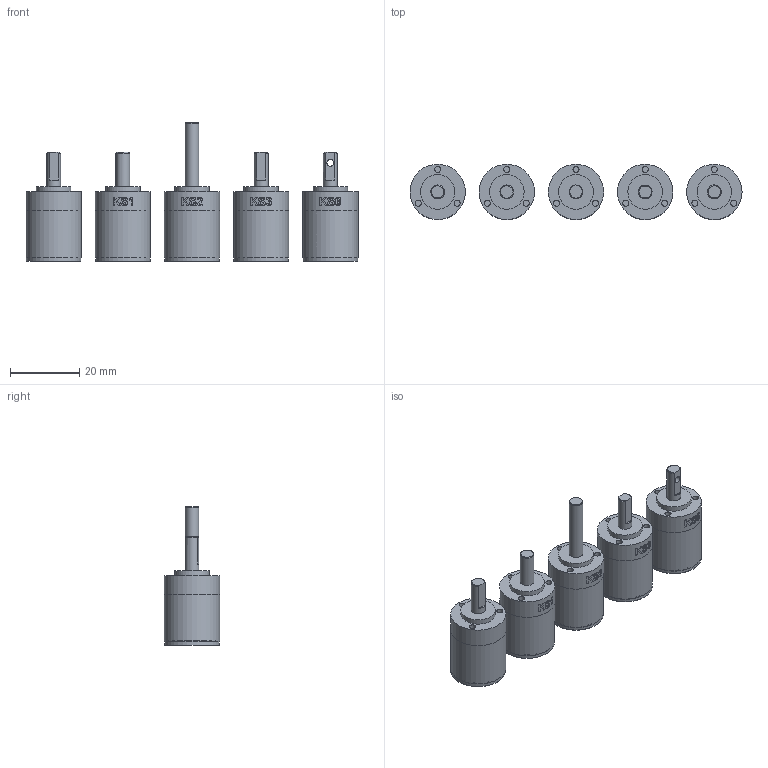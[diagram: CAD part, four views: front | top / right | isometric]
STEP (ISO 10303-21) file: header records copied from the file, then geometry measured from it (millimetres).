
FILE_DESCRIPTION(/* description */ (''),/* implementation_level */ '2;1');
FILE_NAME(/* name */ '16GPT-2stage_standard+KSx.stp',/* time_stamp */ '2024-11-12T10:30:52+01:00',/* author */ ('DR. FRITZ FAULHABER GmbH & Co. KG'),/* organization */ ('DR. FRITZ FAULHABER GmbH & Co. KG'),/* preprocessor_version */ 'ST-DEVELOPER v19.3',/* originating_system */ 'SIEMENS PLM Software NX2212.4000',/* authorisation */ '');
FILE_SCHEMA (('AUTOMOTIVE_DESIGN { 1 0 10303 214 3 1 1 1 }'));
Length unit declared in the file: millimetre
Products named in the file (1): A_objects
Bounding box: 96 x 16 x 40.1 mm (x, y, z)
Volume: 19556.6 mm3; surface area: 8947.4 mm2
Topology: 5 solids, 5 shells, 251 faces, 523 edges, 355 vertices
Faces by surface type: plane 114, cylinder 79, bspline 52, cone 6
Full cylindrical faces by diameter (mm): 1.75 x15, 2 x1, 2.902 x5, 4 x5, 10 x5, 10.6 x5, 14.8 x5, 15.4 x5, 15.8 x5, 15.999 x5, 16 x10
Entity records: 12051 total; most frequent: CARTESIAN_POINT 6743, ORIENTED_EDGE 860, DIRECTION 777, EDGE_CURVE 430, EDGE_LOOP 395, AXIS2_PLACEMENT_3D 362, VERTEX_POINT 331, FACE_BOUND 260
